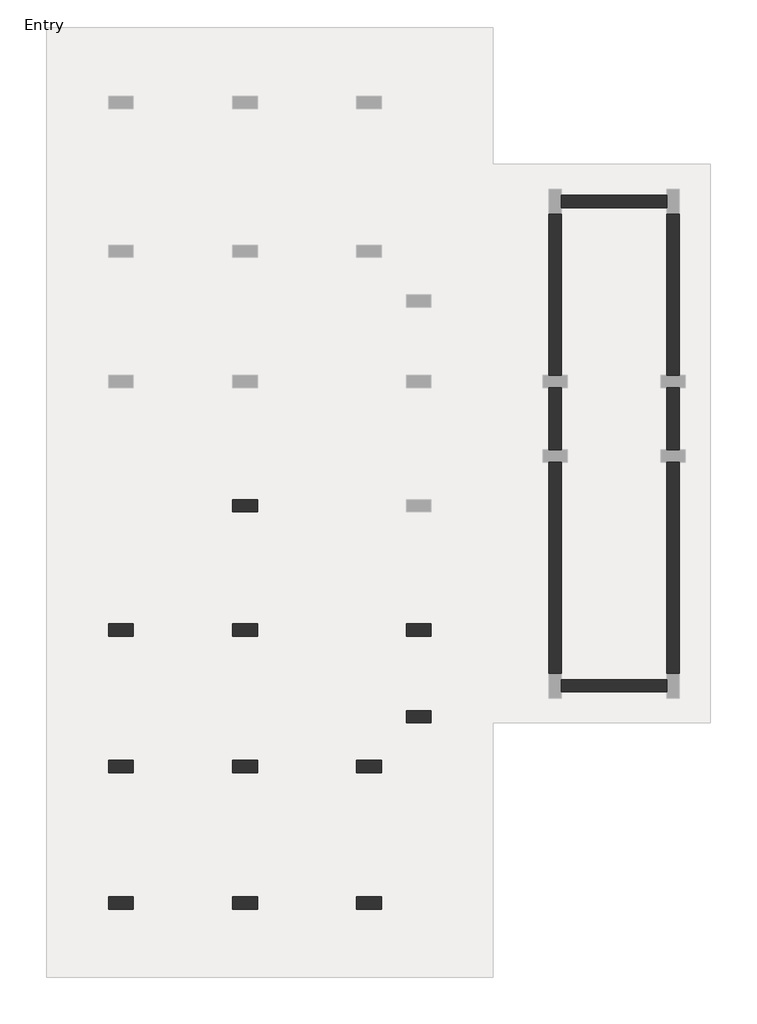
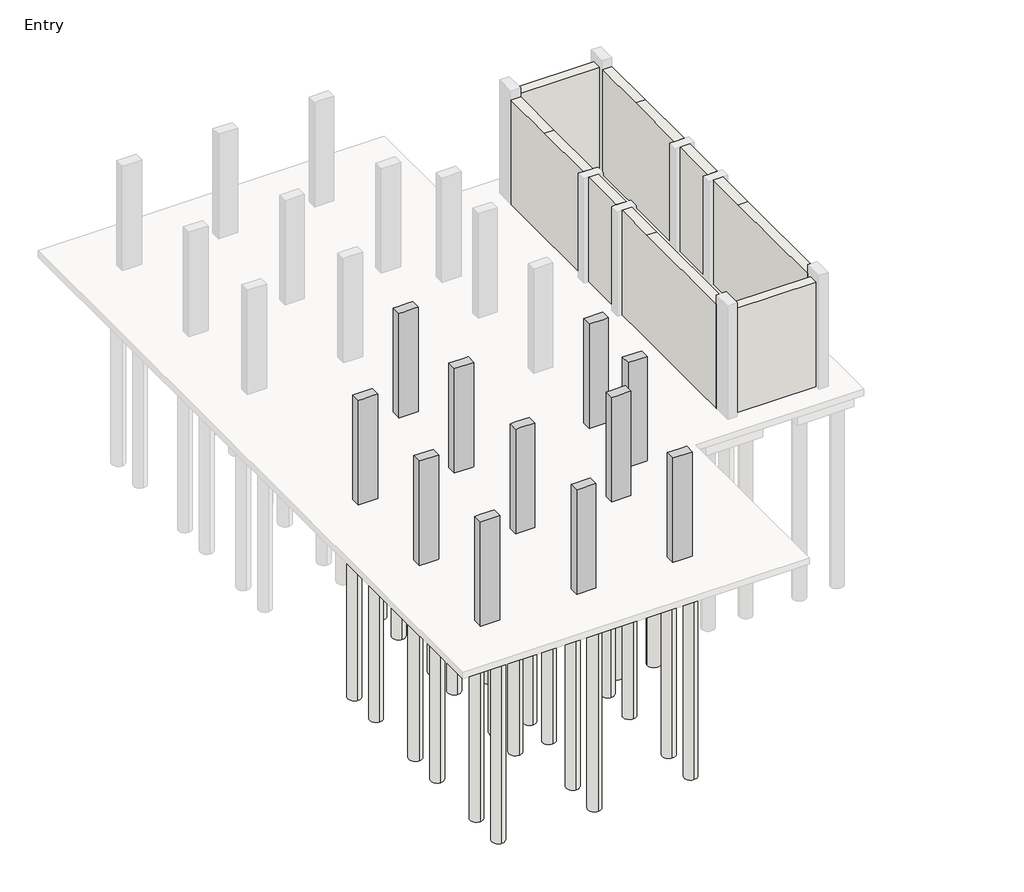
# One storey, part 1 of 3: 38 slabs, 11 columns, 8 walls.
"""IFC4 building model written with IfcOpenShell, lengths in millimetres."""

from ifc_helpers import new_model, si_unit, point, frame, frame_2d, origin, origin_with_axes, place, context, project, spatial, polyline, circle_curve, trimmed, segment, composite_curve, outline, extrude, faceted_brep, element, save

model = new_model("IFC4")

# Units and contexts
model_context = context("Model", 3, world=origin())
ifc_project = project(units=[si_unit("LENGTHUNIT", "METRE", prefix="MILLI")], contexts=[model_context])

# Site, building, storey
site = spatial("IfcSite", under=ifc_project)
building = spatial("IfcBuilding", under=site)
storey = spatial("IfcBuildingStorey", under=building, Name="Entry", Elevation=0.0)

# Columns
placement = place(None, origin())
element("IfcColumn", 1, ObjectType="Concrete-Rectangular-Column : 12 x 24", at=placement, inside=storey, context=model_context, shape_type="Brep", body=[
    faceted_brep([(-12629.5554735, 4740.9867088, 0.0), (-12019.9554735, 4740.9867088, 0.0), (-12019.9554735, 4436.1867088, 0.0), (-12629.5554735, 4436.1867088, 0.0), (-12629.5554735, 4740.9867088, 3505.2), (-12477.1554735, 4740.9867088, 3505.2), (-12172.3554735, 4740.9867088, 3505.2), (-12019.9554735, 4740.9867088, 3505.2), (-12019.9554735, 4740.9867088, 2895.6), (-12019.9554735, 4436.1867088, 3505.2), (-12019.9554735, 4436.1867088, 2895.6), (-12172.3554735, 4436.1867088, 3505.2), (-12477.1554735, 4436.1867088, 3505.2), (-12629.5554735, 4436.1867088, 3505.2)], [[[0, 1, 2, 3]], [[4, 5, 6, 7, 8, 1, 0]], [[7, 9, 10, 2, 1, 8]], [[9, 11, 12, 13, 3, 2, 10]], [[13, 4, 0, 3]], [[4, 13, 12, 11, 9, 7, 6, 5]]]),
])
element("IfcColumn", 2, ObjectType="Concrete-Rectangular-Column : 12 x 24", at=placement, inside=storey, context=model_context, shape_type="Brep", body=[
    faceted_brep([(-12629.5554735, 1692.9867088, 0.0), (-12019.9554735, 1692.9867088, 0.0), (-12019.9554735, 1388.1867088, 0.0), (-12629.5554735, 1388.1867088, 0.0), (-12629.5554735, 1692.9867088, 3505.2), (-12477.1554735, 1692.9867088, 3505.2), (-12172.3554735, 1692.9867088, 3505.2), (-12019.9554735, 1692.9867088, 3505.2), (-12019.9554735, 1692.9867088, 2895.6), (-12629.5554735, 1692.9867088, 2895.6), (-12019.9554735, 1388.1867088, 3505.2), (-12019.9554735, 1388.1867088, 2895.6), (-12172.3554735, 1388.1867088, 3505.2), (-12477.1554735, 1388.1867088, 3505.2), (-12629.5554735, 1388.1867088, 3505.2), (-12629.5554735, 1388.1867088, 2895.6)], [[[0, 1, 2, 3]], [[4, 5, 6, 7, 8, 1, 0, 9]], [[7, 10, 11, 2, 1, 8]], [[10, 12, 13, 14, 15, 3, 2, 11]], [[14, 4, 9, 0, 3, 15]], [[4, 14, 13, 12, 10, 7, 6, 5]]]),
])
element("IfcColumn", 3, ObjectType="Concrete-Rectangular-Column : 12 x 24", at=placement, inside=storey, context=model_context, shape_type="Brep", body=[
    faceted_brep([(-12629.5554735, -1659.8132912, 0.0), (-12019.9554735, -1659.8132912, 0.0), (-12019.9554735, -1964.6132912, 0.0), (-12629.5554735, -1964.6132912, 0.0), (-12629.5554735, -1659.8132912, 3505.2), (-12477.1554735, -1659.8132912, 3505.2), (-12172.3554735, -1659.8132912, 3505.2), (-12019.9554735, -1659.8132912, 3505.2), (-12019.9554735, -1659.8132912, 2895.6), (-12629.5554735, -1659.8132912, 2895.6), (-12019.9554735, -1964.6132912, 3505.2), (-12019.9554735, -1964.6132912, 2895.6), (-12172.3554735, -1964.6132912, 3505.2), (-12477.1554735, -1964.6132912, 3505.2), (-12629.5554735, -1964.6132912, 3505.2), (-12629.5554735, -1964.6132912, 2895.6)], [[[0, 1, 2, 3]], [[4, 5, 6, 7, 8, 1, 0, 9]], [[7, 10, 11, 2, 1, 8]], [[10, 12, 13, 14, 15, 3, 2, 11]], [[14, 4, 9, 0, 3, 15]], [[4, 14, 13, 12, 10, 7, 6, 5]]]),
])
element("IfcColumn", 4, ObjectType="Concrete-Rectangular-Column : 12 x 24", at=placement, inside=storey, context=model_context, shape_type="Brep", body=[
    faceted_brep([(-12629.5554735, -5012.6132912, 0.0), (-12019.9554735, -5012.6132912, 0.0), (-12019.9554735, -5317.4132912, 0.0), (-12629.5554735, -5317.4132912, 0.0), (-12629.5554735, -5012.6132912, 3505.2), (-12477.1554735, -5012.6132912, 3505.2), (-12172.3554735, -5012.6132912, 3505.2), (-12019.9554735, -5012.6132912, 3505.2), (-12019.9554735, -5012.6132912, 2895.6), (-12629.5554735, -5012.6132912, 2895.6), (-12019.9554735, -5317.4132912, 3505.2), (-12019.9554735, -5317.4132912, 2895.6), (-12629.5554735, -5317.4132912, 3505.2), (-12629.5554735, -5317.4132912, 2895.6)], [[[0, 1, 2, 3]], [[4, 5, 6, 7, 8, 1, 0, 9]], [[7, 10, 11, 2, 1, 8]], [[10, 12, 13, 3, 2, 11]], [[12, 4, 9, 0, 3, 13]], [[4, 12, 10, 7, 6, 5]]]),
])
element("IfcColumn", 5, ObjectType="Concrete-Rectangular-Column : 12 x 24", at=placement, inside=storey, context=model_context, shape_type="Brep", body=[
    faceted_brep([(-15677.5554735, -1659.8132912, 0.0), (-15067.9554735, -1659.8132912, 0.0), (-15067.9554735, -1964.6132912, 0.0), (-15677.5554735, -1964.6132912, 0.0), (-15677.5554735, -1659.8132912, 3505.2), (-15525.1554735, -1659.8132912, 3505.2), (-15220.3554735, -1659.8132912, 3505.2), (-15067.9554735, -1659.8132912, 3505.2), (-15067.9554735, -1659.8132912, 2895.6), (-15067.9554735, -1964.6132912, 3505.2), (-15067.9554735, -1964.6132912, 2895.6), (-15220.3554735, -1964.6132912, 3505.2), (-15525.1554735, -1964.6132912, 3505.2), (-15677.5554735, -1964.6132912, 3505.2)], [[[0, 1, 2, 3]], [[4, 5, 6, 7, 8, 1, 0]], [[7, 9, 10, 2, 1, 8]], [[9, 11, 12, 13, 3, 2, 10]], [[13, 4, 0, 3]], [[4, 13, 12, 11, 9, 7, 6, 5]]]),
])
element("IfcColumn", 6, ObjectType="Concrete-Rectangular-Column : 12 x 24", at=placement, inside=storey, context=model_context, shape_type="Brep", body=[
    faceted_brep([(-15677.5554735, -5012.6132912, 0.0), (-15067.9554735, -5012.6132912, 0.0), (-15067.9554735, -5317.4132912, 0.0), (-15677.5554735, -5317.4132912, 0.0), (-15677.5554735, -5012.6132912, 3505.2), (-15525.1554735, -5012.6132912, 3505.2), (-15220.3554735, -5012.6132912, 3505.2), (-15067.9554735, -5012.6132912, 3505.2), (-15067.9554735, -5012.6132912, 2895.6), (-15067.9554735, -5317.4132912, 3505.2), (-15067.9554735, -5317.4132912, 2895.6), (-15677.5554735, -5317.4132912, 3505.2)], [[[0, 1, 2, 3]], [[4, 5, 6, 7, 8, 1, 0]], [[7, 9, 10, 2, 1, 8]], [[9, 11, 3, 2, 10]], [[11, 4, 0, 3]], [[4, 11, 9, 7, 6, 5]]]),
])
element("IfcColumn", 7, ObjectType="Concrete-Rectangular-Column : 12 x 24", at=placement, inside=storey, context=model_context, shape_type="Brep", body=[
    faceted_brep([(-15677.5554735, 1692.9867088, 0.0), (-15067.9554735, 1692.9867088, 0.0), (-15067.9554735, 1388.1867088, 0.0), (-15677.5554735, 1388.1867088, 0.0), (-15677.5554735, 1692.9867088, 3505.2), (-15067.9554735, 1692.9867088, 3505.2), (-15067.9554735, 1692.9867088, 2895.6), (-15067.9554735, 1388.1867088, 3505.2), (-15067.9554735, 1388.1867088, 2895.6), (-15220.3554735, 1388.1867088, 3505.2), (-15525.1554735, 1388.1867088, 3505.2), (-15677.5554735, 1388.1867088, 3505.2)], [[[0, 1, 2, 3]], [[4, 5, 6, 1, 0]], [[5, 7, 8, 2, 1, 6]], [[7, 9, 10, 11, 3, 2, 8]], [[11, 4, 0, 3]], [[4, 11, 10, 9, 7, 5]]]),
])
element("IfcColumn", 8, ObjectType="Concrete-Rectangular-Column : 12 x 24", at=placement, inside=storey, context=model_context, shape_type="Brep", body=[
    faceted_brep([(-8362.3554735, 1692.9867088, 0.0), (-7752.7554735, 1692.9867088, 0.0), (-7752.7554735, 1388.1867088, 0.0), (-8362.3554735, 1388.1867088, 0.0), (-8362.3554735, 1692.9867088, 3505.2), (-8209.9554735, 1692.9867088, 3505.2), (-7905.1554735, 1692.9867088, 3505.2), (-7752.7554735, 1692.9867088, 3505.2), (-8362.3554735, 1692.9867088, 2895.6), (-7752.7554735, 1388.1867088, 3505.2), (-7905.1554735, 1388.1867088, 3505.2), (-8209.9554735, 1388.1867088, 3505.2), (-8362.3554735, 1388.1867088, 3505.2), (-8362.3554735, 1388.1867088, 2895.6)], [[[0, 1, 2, 3]], [[4, 5, 6, 7, 1, 0, 8]], [[7, 9, 2, 1]], [[9, 10, 11, 12, 13, 3, 2]], [[12, 4, 8, 0, 3, 13]], [[4, 12, 11, 10, 9, 7, 6, 5]]]),
])
element("IfcColumn", 9, ObjectType="Concrete-Rectangular-Column : 12 x 24", at=placement, inside=storey, context=model_context, shape_type="Brep", body=[
    faceted_brep([(-9581.5554735, -1659.8132912, 0.0), (-8971.9554735, -1659.8132912, 0.0), (-8971.9554735, -1964.6132912, 0.0), (-9581.5554735, -1964.6132912, 0.0), (-9581.5554735, -1659.8132912, 3505.2), (-9429.1554735, -1659.8132912, 3505.2), (-9124.3554735, -1659.8132912, 3505.2), (-8971.9554735, -1659.8132912, 3505.2), (-9581.5554735, -1659.8132912, 2895.6), (-8971.9554735, -1964.6132912, 3505.2), (-9124.3554735, -1964.6132912, 3505.2), (-9429.1554735, -1964.6132912, 3505.2), (-9581.5554735, -1964.6132912, 3505.2), (-9581.5554735, -1964.6132912, 2895.6)], [[[0, 1, 2, 3]], [[4, 5, 6, 7, 1, 0, 8]], [[7, 9, 2, 1]], [[9, 10, 11, 12, 13, 3, 2]], [[12, 4, 8, 0, 3, 13]], [[4, 12, 11, 10, 9, 7, 6, 5]]]),
])
element("IfcColumn", 10, ObjectType="Concrete-Rectangular-Column : 12 x 24", at=placement, inside=storey, context=model_context, shape_type="Brep", body=[
    faceted_brep([(-9581.5554735, -5012.6132912, 0.0), (-8971.9554735, -5012.6132912, 0.0), (-8971.9554735, -5317.4132912, 0.0), (-9581.5554735, -5317.4132912, 0.0), (-9581.5554735, -5012.6132912, 3505.2), (-9429.1554735, -5012.6132912, 3505.2), (-9124.3554735, -5012.6132912, 3505.2), (-8971.9554735, -5012.6132912, 3505.2), (-9581.5554735, -5012.6132912, 2895.6), (-8971.9554735, -5317.4132912, 3505.2), (-9581.5554735, -5317.4132912, 3505.2), (-9581.5554735, -5317.4132912, 2895.6)], [[[0, 1, 2, 3]], [[4, 5, 6, 7, 1, 0, 8]], [[7, 9, 2, 1]], [[9, 10, 11, 3, 2]], [[10, 4, 8, 0, 3, 11]], [[4, 10, 9, 7, 6, 5]]]),
])
element("IfcColumn", 11, ObjectType="Concrete-Rectangular-Column : 12 x 24", at=placement, inside=storey, context=model_context, shape_type="Brep", body=[
    faceted_brep([(-8362.3554735, -440.6132912, 0.0), (-7752.7554735, -440.6132912, 0.0), (-7752.7554735, -745.4132912, 0.0), (-8362.3554735, -745.4132912, 0.0), (-8362.3554735, -440.6132912, 3505.2), (-8209.9554735, -440.6132912, 3505.2), (-7905.1554735, -440.6132912, 3505.2), (-7752.7554735, -440.6132912, 3505.2), (-8362.3554735, -440.6132912, 2895.6), (-7752.7554735, -745.4132912, 3505.2), (-8362.3554735, -745.4132912, 3505.2), (-8362.3554735, -745.4132912, 2895.6)], [[[0, 1, 2, 3]], [[4, 5, 6, 7, 1, 0, 8]], [[7, 9, 2, 1]], [[9, 10, 11, 3, 2]], [[10, 4, 8, 0, 3, 11]], [[4, 10, 9, 7, 6, 5]]]),
])

# Slabs
element("IfcSlab", 12, ObjectType="Pile Cap-2 Pile : 31\"x61\"x35\"", at=placement, inside=storey, context=model_context, shape_type="SweptSolid", body=[
    extrude(outline(polyline([(-15779.1554735, 2442.2867088), (-14966.3554735, 2442.2867088), (-14966.3554735, 638.8867088), (-15779.1554735, 638.8867088), (-15779.1554735, 2442.2867088)])), frame((0.0, 0.0, -889.0), z_axis=(0.0, 0.0, 1.0), x_axis=(1.0, 0.0, 0.0)), (0.0, 0.0, 1.0), 685.8),
])
element("IfcSlab", 13, ObjectType="Pile Cap-2 Pile : 31\"x61\"x35\"", at=placement, inside=storey, context=model_context, shape_type="SweptSolid", body=[
    extrude(outline(polyline([(-15779.1554735, -910.5132912), (-14966.3554735, -910.5132912), (-14966.3554735, -2713.9132912), (-15779.1554735, -2713.9132912), (-15779.1554735, -910.5132912)])), frame((0.0, 0.0, -889.0), z_axis=(0.0, 0.0, 1.0), x_axis=(1.0, 0.0, 0.0)), (0.0, 0.0, 1.0), 685.8),
])
element("IfcSlab", 14, ObjectType="Pile Cap-2 Pile : 31\"x61\"x35\"", at=placement, inside=storey, context=model_context, shape_type="SweptSolid", body=[
    extrude(outline(polyline([(-15779.1554735, -4263.3132912), (-14966.3554735, -4263.3132912), (-14966.3554735, -6066.7132912), (-15779.1554735, -6066.7132912), (-15779.1554735, -4263.3132912)])), frame((0.0, 0.0, -889.0), z_axis=(0.0, 0.0, 1.0), x_axis=(1.0, 0.0, 0.0)), (0.0, 0.0, 1.0), 685.8),
])
element("IfcSlab", 15, ObjectType="Pile Cap-2 Pile : 31\"x61\"x35\"", at=placement, inside=storey, context=model_context, shape_type="SweptSolid", body=[
    extrude(outline(polyline([(-12731.1554735, -4263.3132912), (-11918.3554735, -4263.3132912), (-11918.3554735, -6066.7132912), (-12731.1554735, -6066.7132912), (-12731.1554735, -4263.3132912)])), frame((0.0, 0.0, -889.0), z_axis=(0.0, 0.0, 1.0), x_axis=(1.0, 0.0, 0.0)), (0.0, 0.0, 1.0), 685.8),
])
element("IfcSlab", 16, ObjectType="Pile Cap-2 Pile : 31\"x61\"x35\"", at=placement, inside=storey, context=model_context, shape_type="SweptSolid", body=[
    extrude(outline(polyline([(-9683.1554735, -4263.3132912), (-8870.3554735, -4263.3132912), (-8870.3554735, -6066.7132912), (-9683.1554735, -6066.7132912), (-9683.1554735, -4263.3132912)])), frame((0.0, 0.0, -889.0), z_axis=(0.0, 0.0, 1.0), x_axis=(1.0, 0.0, 0.0)), (0.0, 0.0, 1.0), 685.8),
])
element("IfcSlab", 17, ObjectType="Pile Cap-2 Pile : 31\"x61\"x35\"", at=placement, inside=storey, context=model_context, shape_type="Brep", body=[
    faceted_brep([(-9683.1554735, -910.5132912, -889.0), (-8959.2554735, -910.5132912, -889.0), (-8870.3554735, -910.5132912, -889.0), (-8870.3554735, -999.4132912, -889.0), (-8870.3554735, -2713.9132912, -889.0), (-9683.1554735, -2713.9132912, -889.0), (-9683.1554735, -2713.9132912, -203.2), (-9683.1554735, -910.5132912, -203.2), (-8870.3554735, -2713.9132912, -203.2), (-8870.3554735, -910.5132912, -203.2), (-8870.3554735, -999.4132912, -203.2), (-8959.2554735, -910.5132912, -203.2)], [[[0, 1, 2, 3, 4, 5]], [[0, 5, 6, 7]], [[5, 4, 8, 6]], [[4, 3, 2, 9, 10, 8]], [[2, 1, 0, 7, 11, 9]], [[7, 6, 8, 10, 9, 11]]]),
])
element("IfcSlab", 18, ObjectType="Pile Cap-2 Pile : 31\"x61\"x35\"", at=placement, inside=storey, context=model_context, shape_type="SweptSolid", body=[
    extrude(outline(polyline([(-8463.9554735, 2442.2867088), (-7651.1554735, 2442.2867088), (-7651.1554735, 638.8867088), (-8463.9554735, 638.8867088), (-8463.9554735, 2442.2867088)])), frame((0.0, 0.0, -889.0), z_axis=(0.0, 0.0, 1.0), x_axis=(1.0, 0.0, 0.0)), (0.0, 0.0, 1.0), 685.8),
])
element("IfcSlab", 19, ObjectType="Pile Cap-2 Pile : 31\"x61\"x35\"", at=placement, inside=storey, context=model_context, shape_type="SweptSolid", body=[
    extrude(outline(polyline([(-7155.8554735, -186.6132912), (-7155.8554735, -999.4132912), (-8870.3554735, -999.4132912), (-8870.3554735, -910.5132912), (-8959.2554735, -910.5132912), (-8959.2554735, -186.6132912), (-7155.8554735, -186.6132912)])), frame((0.0, 0.0, -889.0), z_axis=(0.0, 0.0, 1.0), x_axis=(1.0, 0.0, 0.0)), (0.0, 0.0, 1.0), 685.8),
])
element("IfcSlab", 20, ObjectType="Pile Cap-4 Pile : 72\"x72\"x35\"", at=placement, inside=storey, context=model_context, shape_type="SweptSolid", body=[
    extrude(outline(polyline([(-13239.1554735, 5502.9867088), (-11410.3554735, 5502.9867088), (-11410.3554735, 3674.1867088), (-13239.1554735, 3674.1867088), (-13239.1554735, 5502.9867088)])), frame((0.0, 0.0, -889.0), z_axis=(0.0, 0.0, 1.0), x_axis=(1.0, 0.0, 0.0)), (0.0, 0.0, 1.0), 685.8),
])
element("IfcSlab", 21, ObjectType="Pile Cap-4 Pile : 72\"x72\"x35\"", at=placement, inside=storey, context=model_context, shape_type="SweptSolid", body=[
    extrude(outline(polyline([(-13239.1554735, 2454.9867088), (-11410.3554735, 2454.9867088), (-11410.3554735, 626.1867088), (-13239.1554735, 626.1867088), (-13239.1554735, 2454.9867088)])), frame((0.0, 0.0, -889.0), z_axis=(0.0, 0.0, 1.0), x_axis=(1.0, 0.0, 0.0)), (0.0, 0.0, 1.0), 685.8),
])
element("IfcSlab", 22, ObjectType="Pile Cap-4 Pile : 72\"x72\"x35\"", at=placement, inside=storey, context=model_context, shape_type="SweptSolid", body=[
    extrude(outline(polyline([(-13239.1554735, -897.8132912), (-11410.3554735, -897.8132912), (-11410.3554735, -2726.6132912), (-13239.1554735, -2726.6132912), (-13239.1554735, -897.8132912)])), frame((0.0, 0.0, -889.0), z_axis=(0.0, 0.0, 1.0), x_axis=(1.0, 0.0, 0.0)), (0.0, 0.0, 1.0), 685.8),
])
element("IfcSlab", 23, ObjectType="Pile-Steel Pipe : 16\" Diameter", at=placement, inside=storey, context=model_context, shape_type="SweptSolid", body=[
    extrude(outline(composite_curve([segment(trimmed(circle_curve(frame_2d((-12858.1554735, 4055.1867088)), 203.2), [point((-12858.1554735, 3851.9867088))], [point((-12858.1554735, 4258.3867088))], False, "CARTESIAN"), True, "CONTINUOUS"), segment(trimmed(circle_curve(frame_2d((-12858.1554735, 4055.1867088)), 203.2), [point((-12858.1554735, 4258.3867088))], [point((-12858.1554735, 3851.9867088))], False, "CARTESIAN"), True, "CONTINUOUS")], self_intersect=False)), frame((0.0, 0.0, -6985.0), z_axis=(0.0, 0.0, 1.0), x_axis=(1.0, 0.0, 0.0)), (0.0, 0.0, 1.0), 6096.0),
])
element("IfcSlab", 24, ObjectType="Pile-Steel Pipe : 16\" Diameter", at=placement, inside=storey, context=model_context, shape_type="SweptSolid", body=[
    extrude(outline(composite_curve([segment(trimmed(circle_curve(frame_2d((-12858.1554735, 5121.9867088)), 203.2), [point((-12858.1554735, 4918.7867088))], [point((-12858.1554735, 5325.1867088))], False, "CARTESIAN"), True, "CONTINUOUS"), segment(trimmed(circle_curve(frame_2d((-12858.1554735, 5121.9867088)), 203.2), [point((-12858.1554735, 5325.1867088))], [point((-12858.1554735, 4918.7867088))], False, "CARTESIAN"), True, "CONTINUOUS")], self_intersect=False)), frame((0.0, 0.0, -6985.0), z_axis=(0.0, 0.0, 1.0), x_axis=(1.0, 0.0, 0.0)), (0.0, 0.0, 1.0), 6096.0),
])
element("IfcSlab", 25, ObjectType="Pile-Steel Pipe : 16\" Diameter", at=placement, inside=storey, context=model_context, shape_type="SweptSolid", body=[
    extrude(outline(composite_curve([segment(trimmed(circle_curve(frame_2d((-12858.1554735, 1007.1867088)), 203.2), [point((-12858.1554735, 803.9867088))], [point((-12858.1554735, 1210.3867088))], False, "CARTESIAN"), True, "CONTINUOUS"), segment(trimmed(circle_curve(frame_2d((-12858.1554735, 1007.1867088)), 203.2), [point((-12858.1554735, 1210.3867088))], [point((-12858.1554735, 803.9867088))], False, "CARTESIAN"), True, "CONTINUOUS")], self_intersect=False)), frame((0.0, 0.0, -6985.0), z_axis=(0.0, 0.0, 1.0), x_axis=(1.0, 0.0, 0.0)), (0.0, 0.0, 1.0), 6096.0),
])
element("IfcSlab", 26, ObjectType="Pile-Steel Pipe : 16\" Diameter", at=placement, inside=storey, context=model_context, shape_type="SweptSolid", body=[
    extrude(outline(composite_curve([segment(trimmed(circle_curve(frame_2d((-11791.3554735, 1007.1867088)), 203.2), [point((-11791.3554735, 803.9867088))], [point((-11791.3554735, 1210.3867088))], False, "CARTESIAN"), True, "CONTINUOUS"), segment(trimmed(circle_curve(frame_2d((-11791.3554735, 1007.1867088)), 203.2), [point((-11791.3554735, 1210.3867088))], [point((-11791.3554735, 803.9867088))], False, "CARTESIAN"), True, "CONTINUOUS")], self_intersect=False)), frame((0.0, 0.0, -6985.0), z_axis=(0.0, 0.0, 1.0), x_axis=(1.0, 0.0, 0.0)), (0.0, 0.0, 1.0), 6096.0),
])
element("IfcSlab", 27, ObjectType="Pile-Steel Pipe : 16\" Diameter", at=placement, inside=storey, context=model_context, shape_type="SweptSolid", body=[
    extrude(outline(composite_curve([segment(trimmed(circle_curve(frame_2d((-11791.3554735, 2073.9867088)), 203.2), [point((-11791.3554735, 1870.7867088))], [point((-11791.3554735, 2277.1867088))], False, "CARTESIAN"), True, "CONTINUOUS"), segment(trimmed(circle_curve(frame_2d((-11791.3554735, 2073.9867088)), 203.2), [point((-11791.3554735, 2277.1867088))], [point((-11791.3554735, 1870.7867088))], False, "CARTESIAN"), True, "CONTINUOUS")], self_intersect=False)), frame((0.0, 0.0, -6985.0), z_axis=(0.0, 0.0, 1.0), x_axis=(1.0, 0.0, 0.0)), (0.0, 0.0, 1.0), 6096.0),
])
element("IfcSlab", 28, ObjectType="Pile-Steel Pipe : 16\" Diameter", at=placement, inside=storey, context=model_context, shape_type="SweptSolid", body=[
    extrude(outline(composite_curve([segment(trimmed(circle_curve(frame_2d((-12858.1554735, 2073.9867088)), 203.2), [point((-12858.1554735, 1870.7867088))], [point((-12858.1554735, 2277.1867088))], False, "CARTESIAN"), True, "CONTINUOUS"), segment(trimmed(circle_curve(frame_2d((-12858.1554735, 2073.9867088)), 203.2), [point((-12858.1554735, 2277.1867088))], [point((-12858.1554735, 1870.7867088))], False, "CARTESIAN"), True, "CONTINUOUS")], self_intersect=False)), frame((0.0, 0.0, -6985.0), z_axis=(0.0, 0.0, 1.0), x_axis=(1.0, 0.0, 0.0)), (0.0, 0.0, 1.0), 6096.0),
])
element("IfcSlab", 29, ObjectType="Pile-Steel Pipe : 16\" Diameter", at=placement, inside=storey, context=model_context, shape_type="SweptSolid", body=[
    extrude(outline(composite_curve([segment(trimmed(circle_curve(frame_2d((-12858.1554735, -2345.6132912)), 203.2), [point((-12858.1554735, -2548.8132912))], [point((-12858.1554735, -2142.4132912))], False, "CARTESIAN"), True, "CONTINUOUS"), segment(trimmed(circle_curve(frame_2d((-12858.1554735, -2345.6132912)), 203.2), [point((-12858.1554735, -2142.4132912))], [point((-12858.1554735, -2548.8132912))], False, "CARTESIAN"), True, "CONTINUOUS")], self_intersect=False)), frame((0.0, 0.0, -6985.0), z_axis=(0.0, 0.0, 1.0), x_axis=(1.0, 0.0, 0.0)), (0.0, 0.0, 1.0), 6096.0),
])
element("IfcSlab", 30, ObjectType="Pile-Steel Pipe : 16\" Diameter", at=placement, inside=storey, context=model_context, shape_type="SweptSolid", body=[
    extrude(outline(composite_curve([segment(trimmed(circle_curve(frame_2d((-11791.3554735, -2345.6132912)), 203.2), [point((-11791.3554735, -2548.8132912))], [point((-11791.3554735, -2142.4132912))], False, "CARTESIAN"), True, "CONTINUOUS"), segment(trimmed(circle_curve(frame_2d((-11791.3554735, -2345.6132912)), 203.2), [point((-11791.3554735, -2142.4132912))], [point((-11791.3554735, -2548.8132912))], False, "CARTESIAN"), True, "CONTINUOUS")], self_intersect=False)), frame((0.0, 0.0, -6985.0), z_axis=(0.0, 0.0, 1.0), x_axis=(1.0, 0.0, 0.0)), (0.0, 0.0, 1.0), 6096.0),
])
element("IfcSlab", 31, ObjectType="Pile-Steel Pipe : 16\" Diameter", at=placement, inside=storey, context=model_context, shape_type="SweptSolid", body=[
    extrude(outline(composite_curve([segment(trimmed(circle_curve(frame_2d((-11791.3554735, -1278.8132912)), 203.2), [point((-11791.3554735, -1482.0132912))], [point((-11791.3554735, -1075.6132912))], False, "CARTESIAN"), True, "CONTINUOUS"), segment(trimmed(circle_curve(frame_2d((-11791.3554735, -1278.8132912)), 203.2), [point((-11791.3554735, -1075.6132912))], [point((-11791.3554735, -1482.0132912))], False, "CARTESIAN"), True, "CONTINUOUS")], self_intersect=False)), frame((0.0, 0.0, -6985.0), z_axis=(0.0, 0.0, 1.0), x_axis=(1.0, 0.0, 0.0)), (0.0, 0.0, 1.0), 6096.0),
])
element("IfcSlab", 32, ObjectType="Pile-Steel Pipe : 16\" Diameter", at=placement, inside=storey, context=model_context, shape_type="SweptSolid", body=[
    extrude(outline(composite_curve([segment(trimmed(circle_curve(frame_2d((-12858.1554735, -1278.8132912)), 203.2), [point((-12858.1554735, -1482.0132912))], [point((-12858.1554735, -1075.6132912))], False, "CARTESIAN"), True, "CONTINUOUS"), segment(trimmed(circle_curve(frame_2d((-12858.1554735, -1278.8132912)), 203.2), [point((-12858.1554735, -1075.6132912))], [point((-12858.1554735, -1482.0132912))], False, "CARTESIAN"), True, "CONTINUOUS")], self_intersect=False)), frame((0.0, 0.0, -6985.0), z_axis=(0.0, 0.0, 1.0), x_axis=(1.0, 0.0, 0.0)), (0.0, 0.0, 1.0), 6096.0),
])
element("IfcSlab", 33, ObjectType="Pile-Steel Pipe : 16\" Diameter", at=placement, inside=storey, context=model_context, shape_type="SweptSolid", body=[
    extrude(outline(composite_curve([segment(trimmed(circle_curve(frame_2d((-15372.7554735, 2137.4867088)), 203.2), [point((-15372.7554735, 1934.2867088))], [point((-15372.7554735, 2340.6867088))], False, "CARTESIAN"), True, "CONTINUOUS"), segment(trimmed(circle_curve(frame_2d((-15372.7554735, 2137.4867088)), 203.2), [point((-15372.7554735, 2340.6867088))], [point((-15372.7554735, 1934.2867088))], False, "CARTESIAN"), True, "CONTINUOUS")], self_intersect=False)), frame((0.0, 0.0, -6985.0), z_axis=(0.0, 0.0, 1.0), x_axis=(1.0, 0.0, 0.0)), (0.0, 0.0, 1.0), 6096.0),
])
element("IfcSlab", 34, ObjectType="Pile-Steel Pipe : 16\" Diameter", at=placement, inside=storey, context=model_context, shape_type="SweptSolid", body=[
    extrude(outline(composite_curve([segment(trimmed(circle_curve(frame_2d((-15372.7554735, 943.6867088)), 203.2), [point((-15372.7554735, 740.4867088))], [point((-15372.7554735, 1146.8867088))], False, "CARTESIAN"), True, "CONTINUOUS"), segment(trimmed(circle_curve(frame_2d((-15372.7554735, 943.6867088)), 203.2), [point((-15372.7554735, 1146.8867088))], [point((-15372.7554735, 740.4867088))], False, "CARTESIAN"), True, "CONTINUOUS")], self_intersect=False)), frame((0.0, 0.0, -6985.0), z_axis=(0.0, 0.0, 1.0), x_axis=(1.0, 0.0, 0.0)), (0.0, 0.0, 1.0), 6096.0),
])
element("IfcSlab", 35, ObjectType="Pile-Steel Pipe : 16\" Diameter", at=placement, inside=storey, context=model_context, shape_type="SweptSolid", body=[
    extrude(outline(composite_curve([segment(trimmed(circle_curve(frame_2d((-15372.7554735, -1215.3132912)), 203.2), [point((-15372.7554735, -1418.5132912))], [point((-15372.7554735, -1012.1132912))], False, "CARTESIAN"), True, "CONTINUOUS"), segment(trimmed(circle_curve(frame_2d((-15372.7554735, -1215.3132912)), 203.2), [point((-15372.7554735, -1012.1132912))], [point((-15372.7554735, -1418.5132912))], False, "CARTESIAN"), True, "CONTINUOUS")], self_intersect=False)), frame((0.0, 0.0, -6985.0), z_axis=(0.0, 0.0, 1.0), x_axis=(1.0, 0.0, 0.0)), (0.0, 0.0, 1.0), 6096.0),
])
element("IfcSlab", 36, ObjectType="Pile-Steel Pipe : 16\" Diameter", at=placement, inside=storey, context=model_context, shape_type="SweptSolid", body=[
    extrude(outline(composite_curve([segment(trimmed(circle_curve(frame_2d((-15372.7554735, -2409.1132912)), 203.2), [point((-15372.7554735, -2612.3132912))], [point((-15372.7554735, -2205.9132912))], False, "CARTESIAN"), True, "CONTINUOUS"), segment(trimmed(circle_curve(frame_2d((-15372.7554735, -2409.1132912)), 203.2), [point((-15372.7554735, -2205.9132912))], [point((-15372.7554735, -2612.3132912))], False, "CARTESIAN"), True, "CONTINUOUS")], self_intersect=False)), frame((0.0, 0.0, -6985.0), z_axis=(0.0, 0.0, 1.0), x_axis=(1.0, 0.0, 0.0)), (0.0, 0.0, 1.0), 6096.0),
])
element("IfcSlab", 37, ObjectType="Pile-Steel Pipe : 16\" Diameter", at=placement, inside=storey, context=model_context, shape_type="SweptSolid", body=[
    extrude(outline(composite_curve([segment(trimmed(circle_curve(frame_2d((-15372.7554735, -4568.1132912)), 203.2), [point((-15372.7554735, -4771.3132912))], [point((-15372.7554735, -4364.9132912))], False, "CARTESIAN"), True, "CONTINUOUS"), segment(trimmed(circle_curve(frame_2d((-15372.7554735, -4568.1132912)), 203.2), [point((-15372.7554735, -4364.9132912))], [point((-15372.7554735, -4771.3132912))], False, "CARTESIAN"), True, "CONTINUOUS")], self_intersect=False)), frame((0.0, 0.0, -6985.0), z_axis=(0.0, 0.0, 1.0), x_axis=(1.0, 0.0, 0.0)), (0.0, 0.0, 1.0), 6096.0),
])
element("IfcSlab", 38, ObjectType="Pile-Steel Pipe : 16\" Diameter", at=placement, inside=storey, context=model_context, shape_type="SweptSolid", body=[
    extrude(outline(composite_curve([segment(trimmed(circle_curve(frame_2d((-15372.7554735, -5761.9132912)), 203.2), [point((-15372.7554735, -5965.1132912))], [point((-15372.7554735, -5558.7132912))], False, "CARTESIAN"), True, "CONTINUOUS"), segment(trimmed(circle_curve(frame_2d((-15372.7554735, -5761.9132912)), 203.2), [point((-15372.7554735, -5558.7132912))], [point((-15372.7554735, -5965.1132912))], False, "CARTESIAN"), True, "CONTINUOUS")], self_intersect=False)), frame((0.0, 0.0, -6985.0), z_axis=(0.0, 0.0, 1.0), x_axis=(1.0, 0.0, 0.0)), (0.0, 0.0, 1.0), 6096.0),
])
element("IfcSlab", 39, ObjectType="Pile-Steel Pipe : 16\" Diameter", at=placement, inside=storey, context=model_context, shape_type="SweptSolid", body=[
    extrude(outline(composite_curve([segment(trimmed(circle_curve(frame_2d((-12324.7554735, -4568.1132912)), 203.2), [point((-12324.7554735, -4771.3132912))], [point((-12324.7554735, -4364.9132912))], False, "CARTESIAN"), True, "CONTINUOUS"), segment(trimmed(circle_curve(frame_2d((-12324.7554735, -4568.1132912)), 203.2), [point((-12324.7554735, -4364.9132912))], [point((-12324.7554735, -4771.3132912))], False, "CARTESIAN"), True, "CONTINUOUS")], self_intersect=False)), frame((0.0, 0.0, -6985.0), z_axis=(0.0, 0.0, 1.0), x_axis=(1.0, 0.0, 0.0)), (0.0, 0.0, 1.0), 6096.0),
])
element("IfcSlab", 40, ObjectType="Pile-Steel Pipe : 16\" Diameter", at=placement, inside=storey, context=model_context, shape_type="SweptSolid", body=[
    extrude(outline(composite_curve([segment(trimmed(circle_curve(frame_2d((-12324.7554735, -5761.9132912)), 203.2), [point((-12324.7554735, -5965.1132912))], [point((-12324.7554735, -5558.7132912))], False, "CARTESIAN"), True, "CONTINUOUS"), segment(trimmed(circle_curve(frame_2d((-12324.7554735, -5761.9132912)), 203.2), [point((-12324.7554735, -5558.7132912))], [point((-12324.7554735, -5965.1132912))], False, "CARTESIAN"), True, "CONTINUOUS")], self_intersect=False)), frame((0.0, 0.0, -6985.0), z_axis=(0.0, 0.0, 1.0), x_axis=(1.0, 0.0, 0.0)), (0.0, 0.0, 1.0), 6096.0),
])
element("IfcSlab", 41, ObjectType="Pile-Steel Pipe : 16\" Diameter", at=placement, inside=storey, context=model_context, shape_type="SweptSolid", body=[
    extrude(outline(composite_curve([segment(trimmed(circle_curve(frame_2d((-9276.7554735, -4568.1132912)), 203.2), [point((-9276.7554735, -4771.3132912))], [point((-9276.7554735, -4364.9132912))], False, "CARTESIAN"), True, "CONTINUOUS"), segment(trimmed(circle_curve(frame_2d((-9276.7554735, -4568.1132912)), 203.2), [point((-9276.7554735, -4364.9132912))], [point((-9276.7554735, -4771.3132912))], False, "CARTESIAN"), True, "CONTINUOUS")], self_intersect=False)), frame((0.0, 0.0, -6985.0), z_axis=(0.0, 0.0, 1.0), x_axis=(1.0, 0.0, 0.0)), (0.0, 0.0, 1.0), 6096.0),
])
element("IfcSlab", 42, ObjectType="Pile-Steel Pipe : 16\" Diameter", at=placement, inside=storey, context=model_context, shape_type="SweptSolid", body=[
    extrude(outline(composite_curve([segment(trimmed(circle_curve(frame_2d((-9276.7554735, -5761.9132912)), 203.2), [point((-9276.7554735, -5965.1132912))], [point((-9276.7554735, -5558.7132912))], False, "CARTESIAN"), True, "CONTINUOUS"), segment(trimmed(circle_curve(frame_2d((-9276.7554735, -5761.9132912)), 203.2), [point((-9276.7554735, -5558.7132912))], [point((-9276.7554735, -5965.1132912))], False, "CARTESIAN"), True, "CONTINUOUS")], self_intersect=False)), frame((0.0, 0.0, -6985.0), z_axis=(0.0, 0.0, 1.0), x_axis=(1.0, 0.0, 0.0)), (0.0, 0.0, 1.0), 6096.0),
])
element("IfcSlab", 43, ObjectType="Pile-Steel Pipe : 16\" Diameter", at=placement, inside=storey, context=model_context, shape_type="SweptSolid", body=[
    extrude(outline(composite_curve([segment(trimmed(circle_curve(frame_2d((-9276.7554735, -1215.3132912)), 203.2), [point((-9276.7554735, -1418.5132912))], [point((-9276.7554735, -1012.1132912))], False, "CARTESIAN"), True, "CONTINUOUS"), segment(trimmed(circle_curve(frame_2d((-9276.7554735, -1215.3132912)), 203.2), [point((-9276.7554735, -1012.1132912))], [point((-9276.7554735, -1418.5132912))], False, "CARTESIAN"), True, "CONTINUOUS")], self_intersect=False)), frame((0.0, 0.0, -6985.0), z_axis=(0.0, 0.0, 1.0), x_axis=(1.0, 0.0, 0.0)), (0.0, 0.0, 1.0), 6096.0),
])
element("IfcSlab", 44, ObjectType="Pile-Steel Pipe : 16\" Diameter", at=placement, inside=storey, context=model_context, shape_type="SweptSolid", body=[
    extrude(outline(composite_curve([segment(trimmed(circle_curve(frame_2d((-9276.7554735, -2409.1132912)), 203.2), [point((-9276.7554735, -2612.3132912))], [point((-9276.7554735, -2205.9132912))], False, "CARTESIAN"), True, "CONTINUOUS"), segment(trimmed(circle_curve(frame_2d((-9276.7554735, -2409.1132912)), 203.2), [point((-9276.7554735, -2205.9132912))], [point((-9276.7554735, -2612.3132912))], False, "CARTESIAN"), True, "CONTINUOUS")], self_intersect=False)), frame((0.0, 0.0, -6985.0), z_axis=(0.0, 0.0, 1.0), x_axis=(1.0, 0.0, 0.0)), (0.0, 0.0, 1.0), 6096.0),
])
element("IfcSlab", 45, ObjectType="Pile-Steel Pipe : 16\" Diameter", at=placement, inside=storey, context=model_context, shape_type="SweptSolid", body=[
    extrude(outline(composite_curve([segment(trimmed(circle_curve(frame_2d((-8057.5554735, 2137.4867088)), 203.2), [point((-8057.5554735, 1934.2867088))], [point((-8057.5554735, 2340.6867088))], False, "CARTESIAN"), True, "CONTINUOUS"), segment(trimmed(circle_curve(frame_2d((-8057.5554735, 2137.4867088)), 203.2), [point((-8057.5554735, 2340.6867088))], [point((-8057.5554735, 1934.2867088))], False, "CARTESIAN"), True, "CONTINUOUS")], self_intersect=False)), frame((0.0, 0.0, -6985.0), z_axis=(0.0, 0.0, 1.0), x_axis=(1.0, 0.0, 0.0)), (0.0, 0.0, 1.0), 6096.0),
])
element("IfcSlab", 46, ObjectType="Pile-Steel Pipe : 16\" Diameter", at=placement, inside=storey, context=model_context, shape_type="SweptSolid", body=[
    extrude(outline(composite_curve([segment(trimmed(circle_curve(frame_2d((-8057.5554735, 943.6867088)), 203.2), [point((-8057.5554735, 740.4867088))], [point((-8057.5554735, 1146.8867088))], False, "CARTESIAN"), True, "CONTINUOUS"), segment(trimmed(circle_curve(frame_2d((-8057.5554735, 943.6867088)), 203.2), [point((-8057.5554735, 1146.8867088))], [point((-8057.5554735, 740.4867088))], False, "CARTESIAN"), True, "CONTINUOUS")], self_intersect=False)), frame((0.0, 0.0, -6985.0), z_axis=(0.0, 0.0, 1.0), x_axis=(1.0, 0.0, 0.0)), (0.0, 0.0, 1.0), 6096.0),
])
element("IfcSlab", 47, ObjectType="Pile-Steel Pipe : 16\" Diameter", at=placement, inside=storey, context=model_context, shape_type="SweptSolid", body=[
    extrude(outline(composite_curve([segment(trimmed(circle_curve(frame_2d((-8057.5554735, 3991.6867088)), 203.2), [point((-8057.5554735, 3788.4867088))], [point((-8057.5554735, 4194.8867088))], False, "CARTESIAN"), True, "CONTINUOUS"), segment(trimmed(circle_curve(frame_2d((-8057.5554735, 3991.6867088)), 203.2), [point((-8057.5554735, 4194.8867088))], [point((-8057.5554735, 3788.4867088))], False, "CARTESIAN"), True, "CONTINUOUS")], self_intersect=False)), frame((0.0, 0.0, -6985.0), z_axis=(0.0, 0.0, 1.0), x_axis=(1.0, 0.0, 0.0)), (0.0, 0.0, 1.0), 6096.0),
])
element("IfcSlab", 48, ObjectType="Pile-Steel Pipe : 16\" Diameter", at=placement, inside=storey, context=model_context, shape_type="SweptSolid", body=[
    extrude(outline(composite_curve([segment(trimmed(circle_curve(frame_2d((-7460.6554735, -593.0132912)), 203.2), [point((-7663.8554735, -593.0132912))], [point((-7257.4554735, -593.0132912))], False, "CARTESIAN"), True, "CONTINUOUS"), segment(trimmed(circle_curve(frame_2d((-7460.6554735, -593.0132912)), 203.2), [point((-7257.4554735, -593.0132912))], [point((-7663.8554735, -593.0132912))], False, "CARTESIAN"), True, "CONTINUOUS")], self_intersect=False)), frame((0.0, 0.0, -6985.0), z_axis=(0.0, 0.0, 1.0), x_axis=(1.0, 0.0, 0.0)), (0.0, 0.0, 1.0), 6096.0),
])
element("IfcSlab", 49, ObjectType="Pile-Steel Pipe : 16\" Diameter", at=placement, inside=storey, context=model_context, shape_type="SweptSolid", body=[
    extrude(outline(composite_curve([segment(trimmed(circle_curve(frame_2d((-8654.4554735, -593.0132912)), 203.2), [point((-8857.6554735, -593.0132912))], [point((-8451.2554735, -593.0132912))], False, "CARTESIAN"), True, "CONTINUOUS"), segment(trimmed(circle_curve(frame_2d((-8654.4554735, -593.0132912)), 203.2), [point((-8451.2554735, -593.0132912))], [point((-8857.6554735, -593.0132912))], False, "CARTESIAN"), True, "CONTINUOUS")], self_intersect=False)), frame((0.0, 0.0, -6985.0), z_axis=(0.0, 0.0, 1.0), x_axis=(1.0, 0.0, 0.0)), (0.0, 0.0, 1.0), 6096.0),
])

# Walls
element("IfcWall", 50, ObjectType="Core-Shaft - 12\" Concrete", at=placement, inside=storey, context=model_context, shape_type="SweptSolid", body=[
    extrude(outline(polyline([(-1961.5554735, 11903.7867088), (-4552.3554735, 11903.7867088), (-4552.3554735, 12208.5867088), (-1961.5554735, 12208.5867088), (-1961.5554735, 11903.7867088)])), origin_with_axes(), (0.0, 0.0, 1.0), 3505.2),
])
element("IfcWall", 51, ObjectType="Core-Shaft - 12\" Concrete", at=placement, inside=storey, context=model_context, shape_type="SweptSolid", body=[
    extrude(outline(polyline([(11751.3867088, 0.0), (7788.9867088, 0.0), (7788.9867088, 3505.2), (9922.5867088, 3505.2), (11751.3867088, 3505.2), (11751.3867088, 0.0)])), frame((-1961.5554735, 0.0, 0.0), z_axis=(1.0, 0.0, 0.0), x_axis=(0.0, 1.0, 0.0)), (0.0, 0.0, 1.0), 304.8),
])
element("IfcWall", 52, ObjectType="Core-Shaft - 12\" Concrete", at=placement, inside=storey, context=model_context, shape_type="SweptSolid", body=[
    extrude(outline(polyline([(-1961.5554735, 5960.1867088), (-1961.5554735, 7484.1867088), (-1656.7554735, 7484.1867088), (-1656.7554735, 5960.1867088), (-1961.5554735, 5960.1867088)])), origin_with_axes(), (0.0, 0.0, 1.0), 3505.2),
])
element("IfcWall", 53, ObjectType="Core-Shaft - 12\" Concrete", at=placement, inside=storey, context=model_context, shape_type="SweptSolid", body=[
    extrude(outline(polyline([(7788.9867088, 0.0), (7788.9867088, 3505.2), (9922.5867088, 3505.2), (11751.3867088, 3505.2), (11751.3867088, 0.0), (7788.9867088, 0.0)])), frame((-4857.1554735, 0.0, 0.0), z_axis=(1.0, 0.0, 0.0), x_axis=(0.0, 1.0, 0.0)), (0.0, 0.0, 1.0), 304.8),
])
element("IfcWall", 54, ObjectType="Core-Shaft - 12\" Concrete", at=placement, inside=storey, context=model_context, shape_type="SweptSolid", body=[
    extrude(outline(polyline([(5655.3867088, 0.0), (473.7867088, 0.0), (473.7867088, 3505.2), (4283.7867088, 3505.2), (5655.3867088, 3505.2), (5655.3867088, 0.0)])), frame((-4857.1554735, 0.0, 0.0), z_axis=(1.0, 0.0, 0.0), x_axis=(0.0, 1.0, 0.0)), (0.0, 0.0, 1.0), 304.8),
])
element("IfcWall", 55, ObjectType="Core-Shaft - 12\" Concrete", at=placement, inside=storey, context=model_context, shape_type="SweptSolid", body=[
    extrude(outline(polyline([(-1961.5554735, 16.5867088), (-4552.3554735, 16.5867088), (-4552.3554735, 321.3867088), (-1961.5554735, 321.3867088), (-1961.5554735, 16.5867088)])), origin_with_axes(), (0.0, 0.0, 1.0), 3505.2),
])
element("IfcWall", 56, ObjectType="Core-Shaft - 12\" Concrete", at=placement, inside=storey, context=model_context, shape_type="SweptSolid", body=[
    extrude(outline(polyline([(473.7867088, 0.0), (473.7867088, 3505.2), (4283.7867088, 3505.2), (5655.3867088, 3505.2), (5655.3867088, 0.0), (473.7867088, 0.0)])), frame((-1961.5554735, 0.0, 0.0), z_axis=(1.0, 0.0, 0.0), x_axis=(0.0, 1.0, 0.0)), (0.0, 0.0, 1.0), 304.8),
])
element("IfcWall", 57, ObjectType="Core-Shaft - 12\" Concrete", at=placement, inside=storey, context=model_context, shape_type="SweptSolid", body=[
    extrude(outline(polyline([(-4857.1554735, 5960.1867088), (-4857.1554735, 7484.1867088), (-4552.3554735, 7484.1867088), (-4552.3554735, 5960.1867088), (-4857.1554735, 5960.1867088)])), origin_with_axes(), (0.0, 0.0, 1.0), 3505.2),
])

save(model, "model.ifc")
